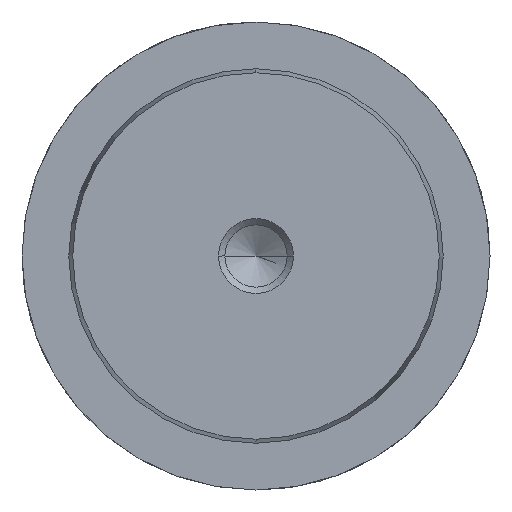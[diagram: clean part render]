
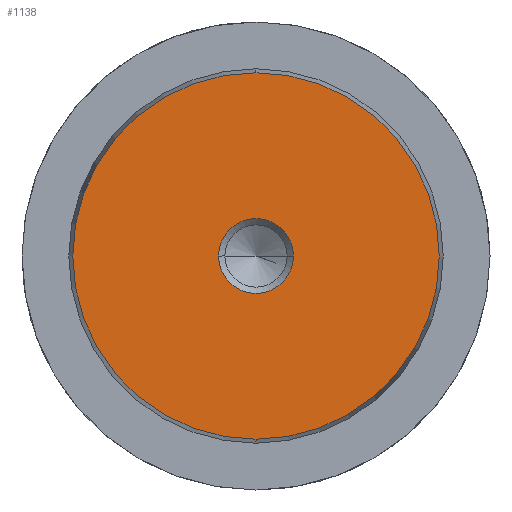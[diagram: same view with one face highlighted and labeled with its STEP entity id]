
A CAD part, left-side view. The second image highlights one B-rep face of the part: STEP entity #1138.
In plain terms, the highlighted planar face has unit normal (-1, 0, 0).
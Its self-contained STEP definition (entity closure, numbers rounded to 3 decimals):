
#1052=CARTESIAN_POINT('Vertex',(0.,0.,-19.578)) ;
#1055=CARTESIAN_POINT('Axis2P3D Location',(0.,0.,0.)) ;
#1059=CARTESIAN_POINT('Vertex',(0.,19.578,0.)) ;
#1062=CARTESIAN_POINT('Axis2P3D Location',(0.,0.,0.)) ;
#1066=CARTESIAN_POINT('Vertex',(0.,0.,19.578)) ;
#1088=CARTESIAN_POINT('Axis2P3D Location',(0.,0.,0.)) ;
#1092=CARTESIAN_POINT('Vertex',(0.,-19.578,0.)) ;
#1095=CARTESIAN_POINT('Axis2P3D Location',(0.,0.,0.)) ;
#1109=CARTESIAN_POINT('Axis2P3D Location',(0.,0.,0.)) ;
#1120=CARTESIAN_POINT('Axis2P3D Location',(0.,0.,0.)) ;
#1124=CARTESIAN_POINT('Vertex',(0.,4.,0.)) ;
#1126=CARTESIAN_POINT('Vertex',(0.,-4.,0.)) ;
#1129=CARTESIAN_POINT('Axis2P3D Location',(0.,0.,0.)) ;
#1056=DIRECTION('Axis2P3D Direction',(1.,-0.,0.)) ;
#1063=DIRECTION('Axis2P3D Direction',(1.,-0.,0.)) ;
#1089=DIRECTION('Axis2P3D Direction',(1.,0.,-0.)) ;
#1096=DIRECTION('Axis2P3D Direction',(1.,0.,-0.)) ;
#1110=DIRECTION('Axis2P3D Direction',(1.,0.,-0.)) ;
#1111=DIRECTION('Axis2P3D XDirection',(-0.,0.,-1.)) ;
#1121=DIRECTION('Axis2P3D Direction',(1.,0.,-0.)) ;
#1130=DIRECTION('Axis2P3D Direction',(1.,0.,-0.)) ;
#1057=AXIS2_PLACEMENT_3D('Circle Axis2P3D',#1055,#1056,$) ;
#1064=AXIS2_PLACEMENT_3D('Circle Axis2P3D',#1062,#1063,$) ;
#1090=AXIS2_PLACEMENT_3D('Circle Axis2P3D',#1088,#1089,$) ;
#1097=AXIS2_PLACEMENT_3D('Circle Axis2P3D',#1095,#1096,$) ;
#1112=AXIS2_PLACEMENT_3D('Plane Axis2P3D',#1109,#1110,#1111) ;
#1122=AXIS2_PLACEMENT_3D('Circle Axis2P3D',#1120,#1121,$) ;
#1131=AXIS2_PLACEMENT_3D('Circle Axis2P3D',#1129,#1130,$) ;
#1115=ORIENTED_EDGE('',*,*,#1061,.F.) ;
#1116=ORIENTED_EDGE('',*,*,#1099,.F.) ;
#1117=ORIENTED_EDGE('',*,*,#1094,.F.) ;
#1118=ORIENTED_EDGE('',*,*,#1068,.F.) ;
#1135=ORIENTED_EDGE('',*,*,#1128,.T.) ;
#1136=ORIENTED_EDGE('',*,*,#1133,.T.) ;
#1137=FACE_BOUND('',#1134,.T.) ;
#1138=ADVANCED_FACE('719-40x280',(#1119,#1137),#1113,.F.) ;
#1058=CIRCLE('generated circle',#1057,19.578) ;
#1065=CIRCLE('generated circle',#1064,19.578) ;
#1091=CIRCLE('generated circle',#1090,19.578) ;
#1098=CIRCLE('generated circle',#1097,19.578) ;
#1123=CIRCLE('generated circle',#1122,4.) ;
#1132=CIRCLE('generated circle',#1131,4.) ;
#1061=EDGE_CURVE('',#1053,#1060,#1058,.T.) ;
#1068=EDGE_CURVE('',#1060,#1067,#1065,.T.) ;
#1094=EDGE_CURVE('',#1067,#1093,#1091,.T.) ;
#1099=EDGE_CURVE('',#1093,#1053,#1098,.T.) ;
#1128=EDGE_CURVE('',#1125,#1127,#1123,.T.) ;
#1133=EDGE_CURVE('',#1127,#1125,#1132,.T.) ;
#1114=EDGE_LOOP('',(#1115,#1116,#1117,#1118)) ;
#1134=EDGE_LOOP('',(#1135,#1136)) ;
#1119=FACE_OUTER_BOUND('',#1114,.T.) ;
#1113=PLANE('Plane',#1112) ;
#1053=VERTEX_POINT('',#1052) ;
#1060=VERTEX_POINT('',#1059) ;
#1067=VERTEX_POINT('',#1066) ;
#1093=VERTEX_POINT('',#1092) ;
#1125=VERTEX_POINT('',#1124) ;
#1127=VERTEX_POINT('',#1126) ;
